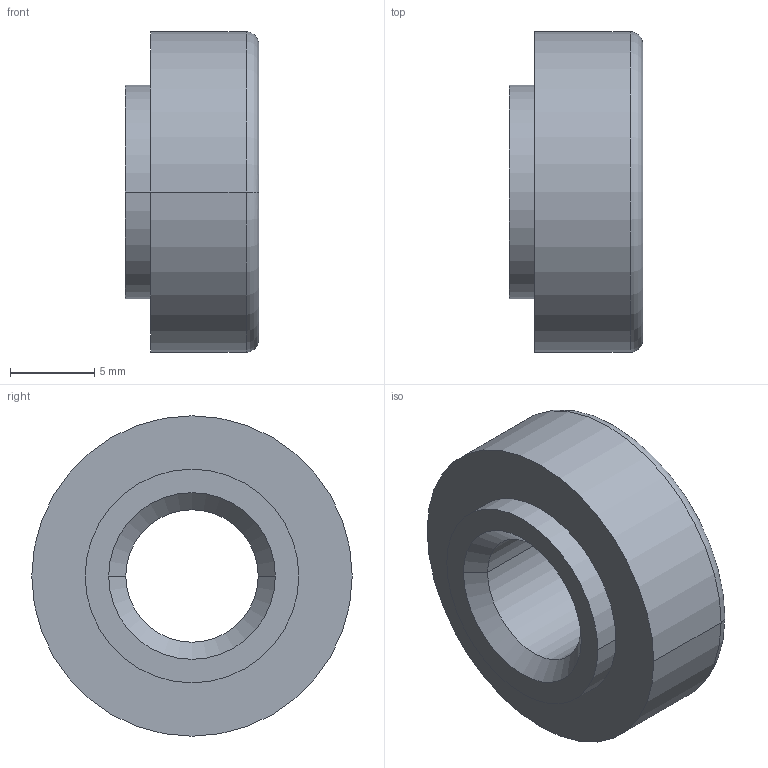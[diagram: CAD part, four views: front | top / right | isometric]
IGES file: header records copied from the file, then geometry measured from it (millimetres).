
Start section:  PTC IGES file: t104cn.igs
Global section: file name: t104cn.igs; native system: Pro/ENGINEER by Parametric Technology Corporation; preprocessor: 2002350; author: chant; organization: Unknown; date: 070703.093719; units: inch
Bounding box: 7.95 x 19.05 x 19.05 mm (x, y, z)
Surface area: 1068.1 mm2 (no closed solid volume)
Topology: 0 solids, 0 shells, 15 faces, 81 edges, 93 vertices
Faces by surface type: revolution 12, bspline 3
